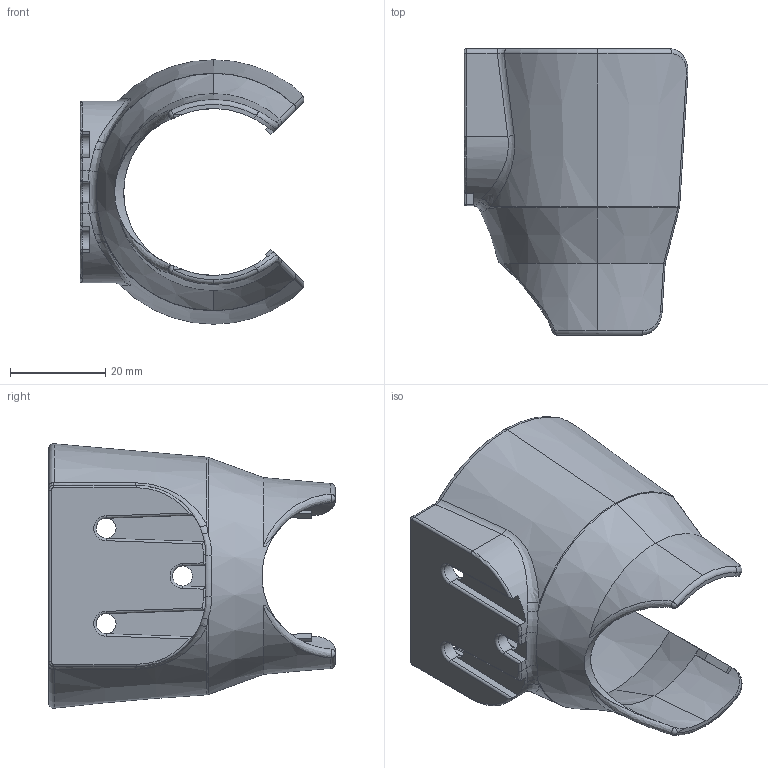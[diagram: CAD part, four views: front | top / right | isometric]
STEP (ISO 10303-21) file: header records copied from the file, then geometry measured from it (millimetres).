
FILE_DESCRIPTION((''),'2;1');
FILE_NAME('2017264','2015-03-12T',('rink'),(''),'PRO/ENGINEER BY PARAMETRIC TECHNOLOGY CORPORATION, 2014310','PRO/ENGINEER BY PARAMETRIC TECHNOLOGY CORPORATION, 2014310','');
FILE_SCHEMA(('AUTOMOTIVE_DESIGN { 1 0 10303 214 1 1 1 1 }'));
Length unit declared in the file: millimetre
Products named in the file (1): 2017264
Bounding box: 46.92 x 60 x 55.41 mm (x, y, z)
Volume: 13774.3 mm3; surface area: 13902.3 mm2
Topology: 1 solids, 1 shells, 212 faces, 552 edges, 334 vertices
Faces by surface type: plane 96, cylinder 34, bspline 26, cone 21, torus 17, extrusion 14, sphere 4
Entity records: 11581 total; most frequent: CARTESIAN_POINT 4160, ORIENTED_EDGE 1092, DIRECTION 903, EDGE_CURVE 546, FILL_AREA_STYLE_COLOUR 363, FILL_AREA_STYLE 363, SURFACE_STYLE_FILL_AREA 363, SURFACE_SIDE_STYLE 363
